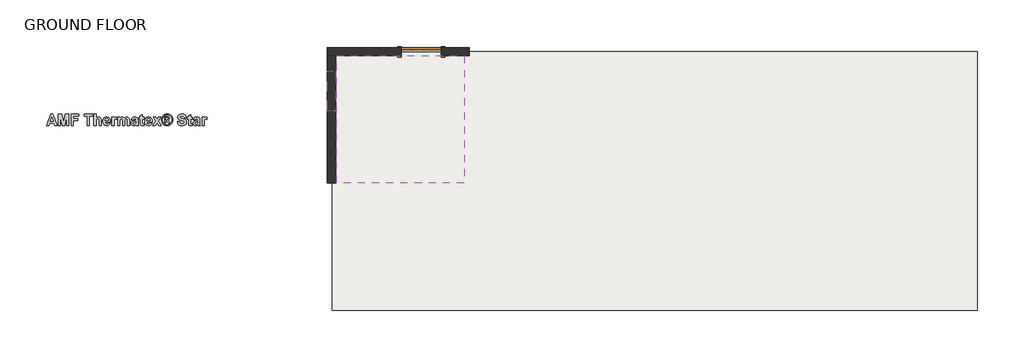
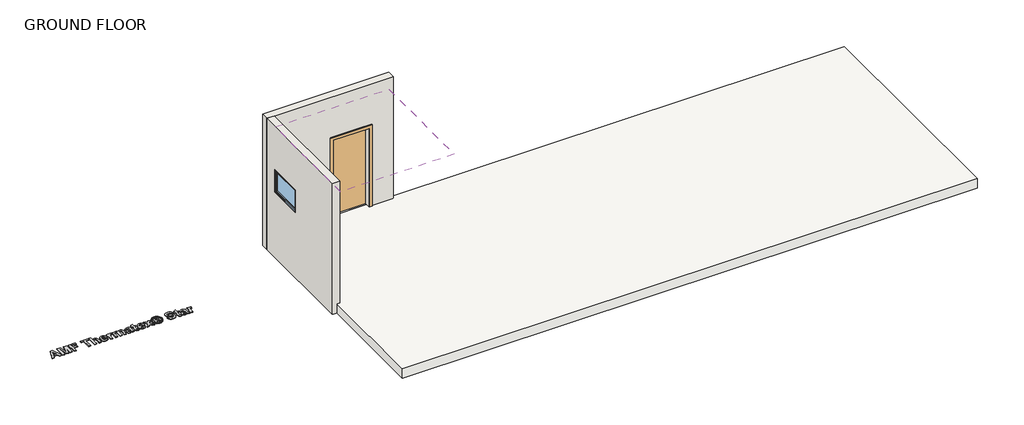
# One storey: 2 walls, 1 covering, 1 door, 1 proxy, 1 slab, 1 window.
"""IFC4 building model written with IfcOpenShell, lengths in millimetres."""

from ifc_helpers import new_model, si_unit, frame, origin, origin_with_axes, place, context, project, spatial, polyline, outline, extrude, faceted_brep, transform, mapped, element, save
from components import m_single_flush_0915_x_2134mm_f5238887, m_fixed_0915_x_0610mm_e83bb20a

model = new_model("IFC4")

# Units and contexts
model_context = context("Model", 3, world=origin())
ifc_project = project(units=[si_unit("LENGTHUNIT", "METRE", prefix="MILLI")], contexts=[model_context])

# Site, building, storey
site = spatial("IfcSite", under=ifc_project)
building = spatial("IfcBuilding", under=site)
storey = spatial("IfcBuildingStorey", under=building, Name="GROUND FLOOR", Elevation=0.0)

# Proxy
placement = place(None, origin())
element("IfcBuildingElementProxy", 1, Name="600mm Arial", ObjectType="600mm Arial", at=placement, inside=storey, context=model_context, shape_type="SweptSolid", body=[
    extrude(outline(polyline([(-7411.3659202, 962.7629859), (-7462.4168463, 962.7629859), (-7482.4070478, 1019.4440637), (-7578.752228, 1019.4440637), (-7598.489389, 962.7629859), (-7650.2361766, 962.7629859), (-7557.1172631, 1217.8278359), (-7505.3704756, 1217.8278359), (-7411.3659202, 962.7629859)]), holes=[polyline([(-7497.9690402, 1063.9791962), (-7530.8010484, 1157.0981097), (-7563.1902357, 1063.9791962), (-7497.9690402, 1063.9791962)])]), origin_with_axes(), (0.0, 0.0, 1.0), 15.0),
    extrude(outline(polyline([(-7387.0740298, 962.7629859), (-7387.0740298, 1217.8278359), (-7303.8236968, 1217.8278359), (-7263.5902532, 1043.8624744), (-7223.3568096, 1217.8278359), (-7140.1064766, 1217.8278359), (-7140.1064766, 962.7629859), (-7188.6902575, 962.7629859), (-7190.7145817, 1163.5506431), (-7235.123194, 962.7629859), (-7291.9940522, 962.7629859), (-7336.4659246, 1163.5506431), (-7338.4902488, 962.7629859), (-7387.0740298, 962.7629859)])), origin_with_axes(), (0.0, 0.0, 1.0), 15.0),
    extrude(outline(polyline([(-7091.5226956, 962.7629859), (-7091.5226956, 1217.8278359), (-6917.4308139, 1217.8278359), (-6917.4308139, 1173.2927034), (-7042.9389147, 1173.2927034), (-7042.9389147, 1116.6116256), (-6933.6254076, 1116.6116256), (-6933.6254076, 1072.0764931), (-7042.9389147, 1072.0764931), (-7042.9389147, 962.7629859), (-7091.5226956, 962.7629859)])), origin_with_axes(), (0.0, 0.0, 1.0), 15.0),
    extrude(outline(polyline([(-6723.0956901, 962.7629859), (-6723.0956901, 1173.2927034), (-6795.9713615, 1173.2927034), (-6795.9713615, 1217.8278359), (-6601.6362377, 1217.8278359), (-6601.6362377, 1173.2927034), (-6674.5119092, 1173.2927034), (-6674.5119092, 962.7629859), (-6723.0956901, 962.7629859)])), origin_with_axes(), (0.0, 0.0, 1.0), 15.0),
    extrude(outline(polyline([(-6520.6632695, 1217.8278359), (-6520.6632695, 1125.468044), (-6508.4580179, 1137.5349141), (-6495.1219914, 1146.154107), (-6480.6551901, 1151.3256227), (-6465.0576139, 1153.0494613), (-6449.2425811, 1151.4758655), (-6435.0723116, 1146.7550782), (-6423.3691873, 1139.5750533), (-6414.9555898, 1130.6237447), (-6405.7196106, 1108.8938896), (-6403.2524655, 1071.9499728), (-6403.2524655, 962.7629859), (-6451.8362465, 962.7629859), (-6451.8362465, 1061.8283518), (-6454.5564321, 1099.3099797), (-6464.1719721, 1111.9303759), (-6481.3787278, 1116.6116256), (-6492.6390312, 1115.1091975), (-6502.634132, 1110.6019131), (-6510.7393364, 1103.0739575), (-6516.3299505, 1092.5095155), (-6520.6632695, 1056.7042811), (-6520.6632695, 962.7629859), (-6569.2470504, 962.7629859), (-6569.2470504, 1217.8278359), (-6520.6632695, 1217.8278359)])), origin_with_axes(), (0.0, 0.0, 1.0), 15.0),
    extrude(outline(polyline([(-6249.4038258, 1019.4440637), (-6200.8200449, 1011.3467669), (-6212.6496895, 988.6759173), (-6229.7931851, 972.1571154), (-6252.0765664, 962.075032), (-6279.325868, 958.7143375), (-6301.3285325, 960.6951704), (-6320.2709881, 966.637669), (-6336.1532348, 976.5418333), (-6348.9752727, 990.4076634), (-6362.3547905, 1019.111948), (-6366.8146298, 1054.4901765), (-6365.3359242, 1076.3307369), (-6360.8998075, 1095.6725221), (-6353.5062796, 1112.5155321), (-6343.1553406, 1126.8597669), (-6330.5428519, 1138.3177582), (-6316.364675, 1146.5020377), (-6300.6208098, 1151.4126054), (-6283.3112563, 1153.0494613), (-6264.0762226, 1151.3691141), (-6246.9841258, 1146.3280723), (-6232.034966, 1137.9263361), (-6219.2287431, 1126.1639055), (-6209.0240932, 1110.930075), (-6201.8796521, 1092.1141397), (-6197.7954199, 1069.7160994), (-6196.7713965, 1043.7359542), (-6318.2308488, 1043.7359542), (-6315.1152874, 1023.2713017), (-6306.7807651, 1007.9307198), (-6294.4924845, 998.3468099), (-6279.5156484, 995.1521732), (-6269.3149522, 996.5913412), (-6260.8539096, 1000.9088452), (-6254.1957808, 1008.4209858), (-6249.4038258, 1019.4440637)]), holes=[polyline([(-6245.3551774, 1072.0764931), (-6248.3125886, 1091.2838505), (-6256.1726599, 1105.256432), (-6267.5911136, 1113.7728272), (-6281.223672, 1116.6116256), (-6295.6153519, 1113.6225844), (-6307.2868461, 1104.6554608), (-6314.941322, 1090.5010063), (-6317.4084671, 1072.0764931), (-6245.3551774, 1072.0764931)])]), origin_with_axes(), (0.0, 0.0, 1.0), 15.0),
    extrude(outline(polyline([(-6111.7497798, 962.7629859), (-6160.3335608, 962.7629859), (-6160.3335608, 1149.0008129), (-6111.7497798, 1149.0008129), (-6111.7497798, 1123.064159), (-6092.3289195, 1147.2611593), (-6072.7182787, 1153.0494613), (-6057.5516622, 1150.487426), (-6042.9227568, 1142.80132), (-6057.0930262, 1096.5581639), (-6068.7961506, 1102.4888013), (-6079.613633, 1104.4656804), (-6096.7254986, 1098.9304189), (-6102.9724366, 1091.1731452), (-6107.7327615, 1078.9718474), (-6111.7497798, 1018.4951617), (-6111.7497798, 962.7629859)])), origin_with_axes(), (0.0, 0.0, 1.0), 15.0),
    extrude(outline(polyline([(-6026.7281631, 1149.0008129), (-5978.1443822, 1149.0008129), (-5978.1443822, 1124.0763211), (-5966.1842636, 1136.75207), (-5953.1408152, 1145.8061763), (-5939.0140371, 1151.2386401), (-5923.8039293, 1153.0494613), (-5908.1549543, 1151.2702701), (-5894.7358989, 1145.9326965), (-5883.5309481, 1136.9892954), (-5874.5242869, 1124.3926218), (-5862.0857635, 1136.9892954), (-5848.6825232, 1145.9326965), (-5834.3303809, 1151.2702701), (-5819.0451516, 1153.0494613), (-5800.5890083, 1150.9697845), (-5785.2009813, 1144.730754), (-5773.0866661, 1134.4588902), (-5764.4516582, 1120.2807132), (-5760.7509405, 1104.7029059), (-5759.5173679, 1081.7552932), (-5759.5173679, 962.7629859), (-5808.1011489, 962.7629859), (-5808.1011489, 1069.9889087), (-5809.3347214, 1092.9365214), (-5813.0354391, 1105.9839235), (-5821.4174065, 1113.9547001), (-5833.4052014, 1116.6116256), (-5843.1077241, 1115.0222148), (-5852.2250906, 1110.2539824), (-5859.8163063, 1102.4176336), (-5864.940377, 1091.6238737), (-5868.8308751, 1052.8454131), (-5868.8308751, 962.7629859), (-5917.414656, 962.7629859), (-5917.414656, 1065.5606995), (-5919.9450613, 1100.8914829), (-5927.7576875, 1112.7211275), (-5942.1493674, 1116.6116256), (-5952.539844, 1115.0696599), (-5961.8232683, 1110.4437628), (-5969.3195939, 1102.8999921), (-5974.3487743, 1092.6044057), (-5978.1443822, 1053.9208353), (-5978.1443822, 962.7629859), (-6026.7281631, 962.7629859), (-6026.7281631, 1149.0008129)])), origin_with_axes(), (0.0, 0.0, 1.0), 15.0),
    extrude(outline(polyline([(-5670.4471028, 1092.3197351), (-5714.9822354, 1100.417032), (-5705.3271578, 1123.7600205), (-5690.5321946, 1140.1443945), (-5668.9683973, 1149.8231946), (-5639.0068175, 1153.0494613), (-5611.9156662, 1151.0963048), (-5592.7636614, 1145.2368351), (-5579.8269645, 1136.3804167), (-5571.381737, 1125.4364139), (-5566.7321173, 1108.4273461), (-5565.1822441, 1081.3757324), (-5565.1822441, 1023.935533), (-5562.6202088, 987.7507378), (-5553.0362989, 962.7629859), (-5601.6200798, 962.7629859), (-5606.1748093, 978.198458), (-5607.8828328, 984.3346907), (-5633.8827469, 965.1352409), (-5648.1953516, 960.3195633), (-5663.4252283, 958.7143375), (-5688.1994772, 962.6127431), (-5707.106349, 974.3079599), (-5719.0862364, 991.9496291), (-5723.0795322, 1013.6873917), (-5721.300341, 1028.5851527), (-5715.9627674, 1041.7748901), (-5707.4147422, 1052.6714477), (-5696.0041959, 1060.6896694), (-5658.9970191, 1072.1397532), (-5613.7660251, 1084.2224383), (-5613.7660251, 1089.3465089), (-5615.2763607, 1101.9669052), (-5619.8073676, 1110.3488726), (-5628.5135432, 1115.0459373), (-5642.5493849, 1116.6116256), (-5652.6235608, 1115.2673478), (-5660.1989616, 1111.2345144), (-5670.4471028, 1092.3197351)]), holes=[polyline([(-5613.7660251, 1047.7846026), (-5641.157662, 1041.0473986), (-5665.702593, 1033.3612926), (-5672.2974617, 1026.4501233), (-5674.4957513, 1017.8625604), (-5672.7323751, 1009.251275), (-5667.4422466, 1001.8893772), (-5659.4319325, 996.8364742), (-5649.5079993, 995.1521732), (-5637.5992796, 997.1132373), (-5626.2915311, 1002.9964295), (-5615.5373087, 1017.5462598), (-5613.7660251, 1038.9914443), (-5613.7660251, 1047.7846026)])]), origin_with_axes(), (0.0, 0.0, 1.0), 15.0),
    extrude(outline(polyline([(-5427.5281981, 1149.0008129), (-5427.5281981, 1112.5629772), (-5463.9660338, 1112.5629772), (-5463.9660338, 1032.6654312), (-5462.8589815, 1004.4197825), (-5457.8298011, 997.7774687), (-5448.2775212, 995.1521732), (-5425.5038739, 999.833423), (-5423.4795497, 965.2933912), (-5442.2203636, 960.3591009), (-5463.2701724, 958.7143375), (-5487.8151034, 963.269067), (-5503.8515467, 975.0354514), (-5510.9683115, 994.582832), (-5512.5498148, 1029.9452455), (-5512.5498148, 1112.5629772), (-5536.8417052, 1112.5629772), (-5536.8417052, 1149.0008129), (-5512.5498148, 1149.0008129), (-5512.5498148, 1185.4386486), (-5463.9660338, 1213.7791875), (-5463.9660338, 1149.0008129), (-5427.5281981, 1149.0008129)])), origin_with_axes(), (0.0, 0.0, 1.0), 15.0),
    extrude(outline(polyline([(-5293.9228005, 1019.4440637), (-5245.3390195, 1011.3467669), (-5257.1686641, 988.6759173), (-5274.3121597, 972.1571154), (-5296.595541, 962.075032), (-5323.8448427, 958.7143375), (-5345.8475071, 960.6951704), (-5364.7899627, 966.637669), (-5380.6722095, 976.5418333), (-5393.4942474, 990.4076634), (-5406.8737652, 1019.111948), (-5411.3336044, 1054.4901765), (-5409.8548989, 1076.3307369), (-5405.4187822, 1095.6725221), (-5398.0252543, 1112.5155321), (-5387.6743153, 1126.8597669), (-5375.0618266, 1138.3177582), (-5360.8836496, 1146.5020377), (-5345.1397844, 1151.4126054), (-5327.8302309, 1153.0494613), (-5308.5951972, 1151.3691141), (-5291.5031005, 1146.3280723), (-5276.5539406, 1137.9263361), (-5263.7477178, 1126.1639055), (-5253.5430678, 1110.930075), (-5246.3986267, 1092.1141397), (-5242.3143945, 1069.7160994), (-5241.2903711, 1043.7359542), (-5362.7498235, 1043.7359542), (-5359.634262, 1023.2713017), (-5351.2997397, 1007.9307198), (-5339.0114592, 998.3468099), (-5324.034623, 995.1521732), (-5313.8339269, 996.5913412), (-5305.3728843, 1000.9088452), (-5298.7147554, 1008.4209858), (-5293.9228005, 1019.4440637)]), holes=[polyline([(-5289.8741521, 1072.0764931), (-5292.8315632, 1091.2838505), (-5300.6916345, 1105.256432), (-5312.1100883, 1113.7728272), (-5325.7426466, 1116.6116256), (-5340.1343265, 1113.6225844), (-5351.8058208, 1104.6554608), (-5359.4602967, 1090.5010063), (-5361.9274418, 1072.0764931), (-5289.8741521, 1072.0764931)])]), origin_with_axes(), (0.0, 0.0, 1.0), 15.0),
    extrude(outline(polyline([(-5227.1201017, 962.7629859), (-5161.329565, 1058.6653452), (-5219.0228048, 1149.0008129), (-5161.2663048, 1149.0008129), (-5133.1788065, 1097.8233666), (-5102.6874231, 1149.0008129), (-5044.9309231, 1149.0008129), (-5104.3321865, 1060.8161897), (-5036.8336263, 962.7629859), (-5094.5901263, 962.7629859), (-5133.1788065, 1020.4562258), (-5169.3636017, 962.7629859), (-5227.1201017, 962.7629859)])), origin_with_axes(), (0.0, 0.0, 1.0), 15.0),
    extrude(outline(polyline([(-4903.2282287, 1221.8764843), (-4870.0720123, 1217.645963), (-4838.2917037, 1204.9543992), (-4810.5284136, 1184.3632264), (-4789.4232522, 1156.4338783), (-4776.0911795, 1124.1000437), (-4771.6471553, 1090.2954109), (-4776.0041968, 1056.7359112), (-4789.0753215, 1024.7579147), (-4809.9432573, 997.0104396), (-4837.6907325, 976.1425037), (-4869.6687289, 963.0713791), (-4903.2282287, 958.7143375), (-4936.7877284, 963.0713791), (-4968.7657248, 976.1425037), (-4996.5132, 997.0104396), (-5017.3811359, 1024.7579147), (-5030.4522605, 1056.7359112), (-5034.8093021, 1090.2954109), (-5030.3652778, 1124.1000437), (-5017.0332051, 1156.4338783), (-4995.9280438, 1184.3632264), (-4968.1647536, 1204.9543992), (-4936.3844451, 1217.645963), (-4903.2282287, 1221.8764843)]), holes=[polyline([(-4903.2914888, 1197.5845939), (-4930.2956574, 1194.1448242), (-4956.1453286, 1183.8255153), (-4978.7371031, 1167.0694879), (-4995.9675814, 1144.3195632), (-5006.879954, 1117.9559034), (-5010.5174116, 1090.3586711), (-5006.9669367, 1062.9907567), (-4996.3155121, 1036.93549), (-4979.2985367, 1014.3199931), (-4956.6514097, 997.2713876), (-4930.580328, 986.5725179), (-4903.2914888, 983.006228), (-4875.931482, 986.5725179), (-4849.8999379, 997.2713876), (-4827.3002559, 1014.3199931), (-4810.2358354, 1036.93549), (-4799.5132432, 1062.9907567), (-4795.9390457, 1090.3586711), (-4799.5765033, 1117.9559034), (-4810.488876, 1144.3195632), (-4827.7430768, 1167.0694879), (-4850.4060189, 1183.8255153), (-4876.3110427, 1194.1448242), (-4903.2914888, 1197.5845939)])]), origin_with_axes(), (0.0, 0.0, 1.0), 15.0),
    extrude(outline(polyline([(-4961.9336307, 1015.3954153), (-4961.9336307, 1165.1954066), (-4934.5419937, 1165.1954066), (-4891.4618442, 1164.8158458), (-4870.3013303, 1158.8377633), (-4857.680934, 1144.4460834), (-4852.6201235, 1123.0008989), (-4854.9686559, 1107.9766177), (-4862.014253, 1095.2929613), (-4873.314094, 1085.9620919), (-4888.4253579, 1080.9961716), (-4878.6516676, 1075.3660199), (-4869.194278, 1063.852676), (-4858.8828765, 1045.6337581), (-4844.5228267, 1015.3954153), (-4872.8633656, 1015.3954153), (-4886.8438546, 1039.3710051), (-4908.2574091, 1069.8623885), (-4916.4733187, 1074.5594532), (-4926.6344773, 1076.1251415), (-4933.5930918, 1076.1251415), (-4933.5930918, 1015.3954153), (-4961.9336307, 1015.3954153)]), holes=[polyline([(-4933.5930918, 1100.417032), (-4922.5225688, 1100.417032), (-4893.2331279, 1102.4097261), (-4884.2501892, 1109.4316007), (-4880.9606624, 1120.8500544), (-4884.1869291, 1131.8889473), (-4893.3596482, 1138.8159317), (-4922.5225688, 1140.9035161), (-4933.5930918, 1140.9035161), (-4933.5930918, 1100.417032)])]), origin_with_axes(), (0.0, 0.0, 1.0), 15.0),
    extrude(outline(polyline([(-4666.3822965, 1047.7846026), (-4617.7985156, 1051.833251), (-4610.7133809, 1030.1033958), (-4598.8204762, 1015.0158545), (-4582.0407263, 1006.1910662), (-4560.2950561, 1003.2494701), (-4537.7270042, 1005.851043), (-4521.5165955, 1013.6557617), (-4511.7429052, 1024.9397876), (-4508.4850084, 1037.9792822), (-4513.8937497, 1053.1933438), (-4532.8401591, 1064.1057165), (-4574.9714066, 1074.923199), (-4610.9347913, 1086.1044272), (-4634.3094099, 1099.7844306), (-4652.2911023, 1123.079974), (-4658.2849997, 1150.961877), (-4655.533184, 1169.750136), (-4647.2777368, 1187.2731924), (-4633.8349589, 1202.1551383), (-4615.5211509, 1213.0200659), (-4592.6367983, 1219.6623797), (-4565.4823869, 1221.8764843), (-4523.5171972, 1216.3570379), (-4506.9766497, 1209.4577298), (-4493.3974671, 1199.7986985), (-4482.7361581, 1187.8385799), (-4474.9492313, 1174.0360099), (-4470.0366867, 1158.3909887), (-4467.9985243, 1140.9035161), (-4516.5823053, 1140.9035161), (-4521.9515089, 1157.5962833), (-4531.2270257, 1168.8328641), (-4545.2628674, 1175.2142299), (-4564.9130457, 1177.3413518), (-4585.5991087, 1175.0798021), (-4601.2243611, 1168.295153), (-4607.5820044, 1161.4946889), (-4609.7012188, 1152.7331607), (-4607.7717848, 1144.4618985), (-4601.9834827, 1137.487469), (-4585.1800103, 1129.3190045), (-4554.3802338, 1120.8816845), (-4521.508688, 1112.1043412), (-4498.4899077, 1102.9158071), (-4482.3585742, 1091.7899315), (-4470.1493688, 1077.2005637), (-4462.4632628, 1058.9658308), (-4459.9012275, 1036.90386), (-4462.9298063, 1015.8382362), (-4472.0155427, 996.1643353), (-4486.6444481, 979.621811), (-4506.3025339, 967.9503167), (-4531.2033032, 961.0233323), (-4561.5602587, 958.7143375), (-4584.2627384, 960.1357136), (-4604.1659573, 964.3998418), (-4621.2699153, 971.5067222), (-4635.5746125, 981.4563548), (-4647.1788929, 994.1301267), (-4656.1816003, 1009.4094254), (-4662.5827349, 1027.2942506), (-4666.3822965, 1047.7846026)])), origin_with_axes(), (0.0, 0.0, 1.0), 15.0),
    extrude(outline(polyline([(-4330.3444783, 1149.0008129), (-4330.3444783, 1112.5629772), (-4366.782314, 1112.5629772), (-4366.782314, 1032.6654312), (-4365.6752617, 1004.4197825), (-4360.6460813, 997.7774687), (-4351.0938014, 995.1521732), (-4328.3201541, 999.833423), (-4326.2958299, 965.2933912), (-4345.0366438, 960.3591009), (-4366.0864526, 958.7143375), (-4390.6313836, 963.269067), (-4406.6678269, 975.0354514), (-4413.7845917, 994.582832), (-4415.366095, 1029.9452455), (-4415.366095, 1112.5629772), (-4439.6579854, 1112.5629772), (-4439.6579854, 1149.0008129), (-4415.366095, 1149.0008129), (-4415.366095, 1185.4386486), (-4366.782314, 1213.7791875), (-4366.782314, 1149.0008129), (-4330.3444783, 1149.0008129)])), origin_with_axes(), (0.0, 0.0, 1.0), 15.0),
    extrude(outline(polyline([(-4261.5174553, 1092.3197351), (-4306.0525878, 1100.417032), (-4296.3975103, 1123.7600205), (-4281.602547, 1140.1443945), (-4260.0387497, 1149.8231946), (-4230.07717, 1153.0494613), (-4202.9860187, 1151.0963048), (-4183.8340139, 1145.2368351), (-4170.897317, 1136.3804167), (-4162.4520894, 1125.4364139), (-4157.8024698, 1108.4273461), (-4156.2525966, 1081.3757324), (-4156.2525966, 1023.935533), (-4153.6905612, 987.7507378), (-4144.1066513, 962.7629859), (-4192.6904323, 962.7629859), (-4197.2451617, 978.198458), (-4198.9531853, 984.3346907), (-4224.9530993, 965.1352409), (-4239.265704, 960.3195633), (-4254.4955807, 958.7143375), (-4279.2698297, 962.6127431), (-4298.1767015, 974.3079599), (-4310.1565889, 991.9496291), (-4314.1498846, 1013.6873917), (-4312.3706935, 1028.5851527), (-4307.0331199, 1041.7748901), (-4298.4850946, 1052.6714477), (-4287.0745484, 1060.6896694), (-4250.0673715, 1072.1397532), (-4204.8363775, 1084.2224383), (-4204.8363775, 1089.3465089), (-4206.3467131, 1101.9669052), (-4210.8777201, 1110.3488726), (-4219.5838957, 1115.0459373), (-4233.6197373, 1116.6116256), (-4243.6939133, 1115.2673478), (-4251.269314, 1111.2345144), (-4261.5174553, 1092.3197351)]), holes=[polyline([(-4204.8363775, 1047.7846026), (-4232.2280144, 1041.0473986), (-4256.7729454, 1033.3612926), (-4263.3678141, 1026.4501233), (-4265.5661037, 1017.8625604), (-4263.8027275, 1009.251275), (-4258.512599, 1001.8893772), (-4250.5022849, 996.8364742), (-4240.5783518, 995.1521732), (-4228.669632, 997.1132373), (-4217.3618835, 1002.9964295), (-4206.6076612, 1017.5462598), (-4204.8363775, 1038.9914443), (-4204.8363775, 1047.7846026)])]), origin_with_axes(), (0.0, 0.0, 1.0), 15.0),
    extrude(outline(polyline([(-4059.0850347, 962.7629859), (-4107.6688156, 962.7629859), (-4107.6688156, 1149.0008129), (-4059.0850347, 1149.0008129), (-4059.0850347, 1123.064159), (-4039.6641743, 1147.2611593), (-4020.0535336, 1153.0494613), (-4004.886917, 1150.487426), (-3990.2580116, 1142.80132), (-4004.4282811, 1096.5581639), (-4016.1314054, 1102.4888013), (-4026.9488879, 1104.4656804), (-4044.0607534, 1098.9304189), (-4050.3076914, 1091.1731452), (-4055.0680163, 1078.9718474), (-4059.0850347, 1018.4951617), (-4059.0850347, 962.7629859)])), origin_with_axes(), (0.0, 0.0, 1.0), 15.0),
])

# Covering
element("IfcCovering", 2, ObjectType="AMF Thermatex® Star - 600x600mm", at=placement, inside=storey, context=model_context, shape_type="SweptSolid", body=[
    extrude(outline(polyline([(-1041.7221628, 2549.3082476), (1863.2778372, 2549.3082476), (1863.2778372, -355.6917524), (-1041.7221628, -355.6917524), (-1041.7221628, 2549.3082476)])), frame((0.0, 0.0, 3000.0), z_axis=(0.0, 0.0, 1.0), x_axis=(1.0, 0.0, 0.0)), (0.0, 0.0, 1.0), 51.0),
])

# Door
m_single_flush_0915_x_2134mm_shape = m_single_flush_0915_x_2134mm_f5238887(model_context)
element("IfcDoor", 3, ObjectType="M_Single-Flush : 0915 x 2134mm", at=placement, inside=storey, context=model_context, shape_type="MappedRepresentation", body=[
    mapped(m_single_flush_0915_x_2134mm_shape, transform((891.2778372, 2644.3082476, 0.0), x_axis=(1.0, 0.0, 0.0), y_axis=(0.0, 1.0, 0.0), z_axis=(0.0, 0.0, 1.0))),
])

# Slab
element("IfcSlab", 4, ObjectType="Generic Floor - 250mm", at=placement, inside=storey, context=model_context, shape_type="Brep", body=[
    faceted_brep([(-1136.7221628, 2644.3082476, -250.0), (1977.2778372, 2644.3082476, -250.0), (13563.2778372, 2644.3082476, -250.0), (13563.2778372, -3255.6917524, -250.0), (-1136.7221628, -3255.6917524, -250.0), (-1136.7221628, 2549.3082476, -250.0), (-1136.7221628, 2644.3082476, 0.0), (-1136.7221628, 2549.3082476, 0.0), (-1136.7221628, -3255.6917524, 0.0), (13563.2778372, -3255.6917524, 0.0), (13563.2778372, 2644.3082476, 0.0), (1977.2778372, 2644.3082476, 0.0), (1348.7778372, 2644.3082476, 0.0), (433.7778372, 2644.3082476, 0.0)], [[[0, 1, 2, 3, 4, 5]], [[6, 7, 8, 9, 10, 11, 12, 13]], [[2, 1, 0, 6, 13, 12, 11, 10]], [[3, 2, 10, 9]], [[4, 3, 9, 8]], [[0, 5, 4, 8, 7, 6]]]),
])

# Walls
element("IfcWall", 5, ObjectType="190mm MAXI BLOCK- plastered", at=placement, inside=storey, context=model_context, shape_type="Brep", body=[
    faceted_brep([(1977.2778372, 2549.3082476, 3300.0), (-1060.7221628, 2549.3082476, 3300.0), (-1250.7221628, 2549.3082476, 3300.0), (-1250.7221628, 2549.3082476, -250.0), (-1136.7221628, 2549.3082476, -250.0), (-1136.7221628, 2549.3082476, 0.0), (433.7778372, 2549.3082476, 0.0), (433.7778372, 2549.3082476, 2134.0), (1348.7778372, 2549.3082476, 2134.0), (1348.7778372, 2549.3082476, 0.0), (1977.2778372, 2549.3082476, 0.0), (1977.2778372, 2739.3082476, -250.0), (-1250.7221628, 2739.3082476, -250.0), (-1250.7221628, 2739.3082476, 3300.0), (1977.2778372, 2739.3082476, 3300.0), (433.7778372, 2739.3082476, 0.0), (1348.7778372, 2739.3082476, 0.0), (1348.7778372, 2739.3082476, 2134.0), (433.7778372, 2739.3082476, 2134.0), (1977.2778372, 2644.3082476, -250.0), (-1136.7221628, 2644.3082476, -250.0), (1977.2778372, 2644.3082476, 0.0), (433.7778372, 2644.3082476, 0.0), (1348.7778372, 2644.3082476, 0.0), (-1136.7221628, 2644.3082476, 0.0)], [[[0, 1, 2, 3, 4, 5, 6, 7, 8, 9, 10]], [[11, 12, 13, 14], [15, 16, 17, 18]], [[12, 11, 19, 20, 4, 3]], [[11, 14, 0, 10, 21, 19]], [[2, 1, 0, 14, 13]], [[16, 15, 22, 23]], [[17, 16, 23, 9, 8]], [[18, 17, 8, 7]], [[15, 18, 7, 6, 22]], [[24, 22, 6, 5]], [[23, 21, 10, 9]], [[24, 20, 19, 21, 23, 22]], [[20, 24, 5, 4]], [[3, 2, 13, 12]]]),
])
element("IfcWall", 6, ObjectType="190mm MAXI BLOCK- plastered", at=placement, inside=storey, context=model_context, shape_type="SweptSolid", body=[
    extrude(outline(polyline([(-355.6917524, -250.0), (-355.6917524, 3300.0), (2549.3082476, 3300.0), (2549.3082476, -250.0), (-355.6917524, -250.0)]), holes=[polyline([(1286.8082476, 1518.2533986), (2201.8082476, 1518.2533986), (2201.8082476, 2128.2533986), (1286.8082476, 2128.2533986), (1286.8082476, 1518.2533986)])]), frame((-1250.7221628, 0.0, 0.0), z_axis=(1.0, 0.0, 0.0), x_axis=(0.0, 1.0, 0.0)), (0.0, 0.0, 1.0), 190.0),
])

# Window
m_fixed_0915_x_0610mm_shape = m_fixed_0915_x_0610mm_e83bb20a(model_context)
element("IfcWindow", 7, ObjectType="M_Fixed : 0915 x 0610mm", at=placement, inside=storey, context=model_context, shape_type="MappedRepresentation", body=[
    mapped(m_fixed_0915_x_0610mm_shape, transform((-1142.7221628, 1744.3082476, 603.2533986), x_axis=(0.0, 1.0, 0.0), y_axis=(-1.0, 0.0, 0.0), z_axis=(0.0, 0.0, 1.0))),
])

save(model, "model.ifc")
